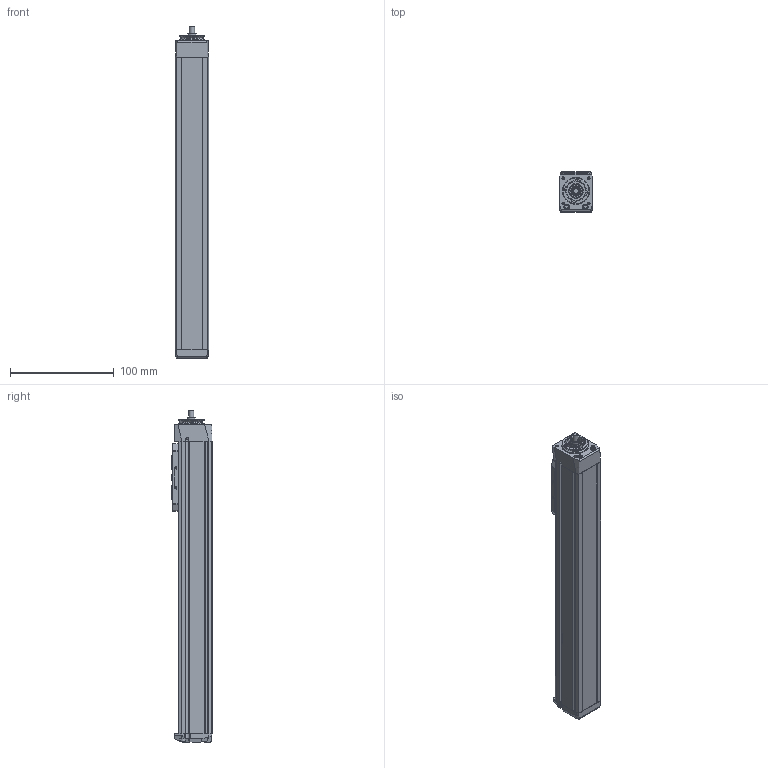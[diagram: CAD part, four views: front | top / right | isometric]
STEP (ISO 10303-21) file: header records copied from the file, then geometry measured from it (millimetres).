
FILE_DESCRIPTION(/* description */ ('STEP AP214'),/* implementation_level */ '2;1');
FILE_NAME(/* name */ 'MGBS 32 0802 200(0)',/* time_stamp */ '2023-04-12T10:41:48+02:00',/* author */ ('License CC BY-ND 4.0'),/* organization */ ('CADENAS'),/* preprocessor_version */ 'ST-DEVELOPER v19.3',/* originating_system */ 'PARTsolutions',/* authorisation */ ' ');
FILE_SCHEMA (('AUTOMOTIVE_DESIGN {1 0 10303 214 3 1 1}'));
Length unit declared in the file: millimetre
Products named in the file (6): MGBS 32 0802 200(0); MGBS 32 200_protection_strip; MGBS 32_carriage; MGBS 32_end_block; MGBS 32 200_profile; MGBS 32_drive_block
Assembly tree (5 placements, depth 2):
  MGBS 32 0802 200(0)
    MGBS 32 200_protection_strip
    MGBS 32_carriage
    MGBS 32_end_block
    MGBS 32 200_profile
    MGBS 32_drive_block
Bounding box: 32 x 38.5 x 319.5 mm (x, y, z)
Volume: 299227.3 mm3; surface area: 78561 mm2
Topology: 5 solids, 5 shells, 638 faces, 1686 edges, 1092 vertices
Faces by surface type: plane 301, cylinder 160, cone 94, bspline 56, torus 25, sphere 2
Full cylindrical faces by diameter (mm): 0.3 x1, 1.567 x4, 1.755 x4, 1.8 x2, 2 x2, 2.3 x4, 2.459 x8, 2.46 x4, 2.5 x11, 3 x1, 3.8 x4, 4.5 x6, 5 x5, 7.5 x1, 8 x1, 10 x1, 13.84 x1, 14.2 x1, 17.8 x1, 18.16 x1, 19.5 x1, 25 x2, 25.7 x1
Entity records: 23436 total; most frequent: CARTESIAN_POINT 4050, DIRECTION 3216, ORIENTED_EDGE 2990, EDGE_CURVE 1495, AXIS2_PLACEMENT_3D 1173, VERTEX_POINT 1077, LINE 870, VECTOR 870
